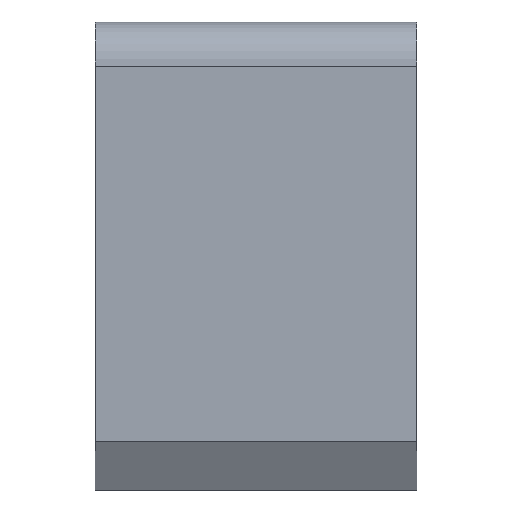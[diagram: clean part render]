
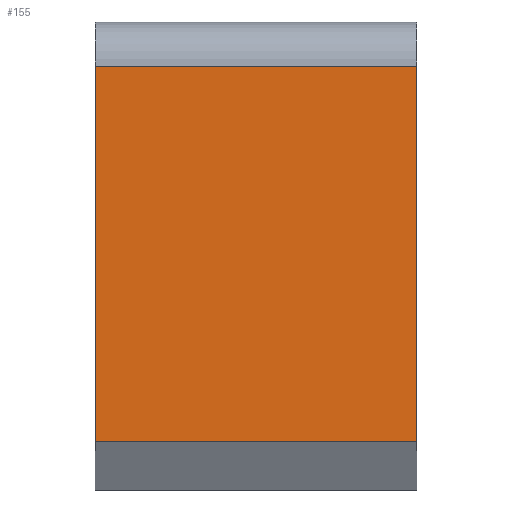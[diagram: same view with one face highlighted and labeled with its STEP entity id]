
A CAD part, front view. The second image highlights one B-rep face of the part: STEP entity #155.
In plain terms, the highlighted planar face has unit normal (0, -1, 0).
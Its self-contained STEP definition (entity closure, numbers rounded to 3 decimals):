
#137=AXIS2_PLACEMENT_3D('Plane Axis2P3D',#134,#135,#136) ;
#37=CARTESIAN_POINT('Line Origine',(30.,0.,0.)) ;
#41=CARTESIAN_POINT('Vertex',(0.,0.,0.)) ;
#43=CARTESIAN_POINT('Vertex',(60.,0.,0.)) ;
#112=CARTESIAN_POINT('Vertex',(0.,0.,70.)) ;
#115=CARTESIAN_POINT('Line Origine',(30.,0.,70.)) ;
#119=CARTESIAN_POINT('Vertex',(60.,0.,70.)) ;
#134=CARTESIAN_POINT('Axis2P3D Location',(0.,0.,0.)) ;
#139=CARTESIAN_POINT('Line Origine',(0.,0.,35.)) ;
#144=CARTESIAN_POINT('Line Origine',(60.,0.,35.)) ;
#38=DIRECTION('Vector Direction',(1.,0.,0.)) ;
#116=DIRECTION('Vector Direction',(1.,0.,0.)) ;
#135=DIRECTION('Axis2P3D Direction',(0.,1.,0.)) ;
#136=DIRECTION('Axis2P3D XDirection',(0.,0.,1.)) ;
#140=DIRECTION('Vector Direction',(0.,0.,1.)) ;
#145=DIRECTION('Vector Direction',(0.,0.,1.)) ;
#39=VECTOR('Line Direction',#38,1.) ;
#117=VECTOR('Line Direction',#116,1.) ;
#141=VECTOR('Line Direction',#140,1.) ;
#146=VECTOR('Line Direction',#145,1.) ;
#150=ORIENTED_EDGE('',*,*,#121,.F.) ;
#151=ORIENTED_EDGE('',*,*,#143,.T.) ;
#152=ORIENTED_EDGE('',*,*,#45,.T.) ;
#153=ORIENTED_EDGE('',*,*,#148,.F.) ;
#155=ADVANCED_FACE('\X2\96F64EF651E04F554F53\X0\',(#154),#138,.F.) ;
#45=EDGE_CURVE('',#42,#44,#40,.T.) ;
#121=EDGE_CURVE('',#113,#120,#118,.T.) ;
#143=EDGE_CURVE('',#113,#42,#142,.F.) ;
#148=EDGE_CURVE('',#120,#44,#147,.F.) ;
#149=EDGE_LOOP('',(#150,#151,#152,#153)) ;
#154=FACE_OUTER_BOUND('',#149,.T.) ;
#40=LINE('Line',#37,#39) ;
#118=LINE('Line',#115,#117) ;
#142=LINE('Line',#139,#141) ;
#147=LINE('Line',#144,#146) ;
#138=PLANE('Plane',#137) ;
#42=VERTEX_POINT('',#41) ;
#44=VERTEX_POINT('',#43) ;
#113=VERTEX_POINT('',#112) ;
#120=VERTEX_POINT('',#119) ;
